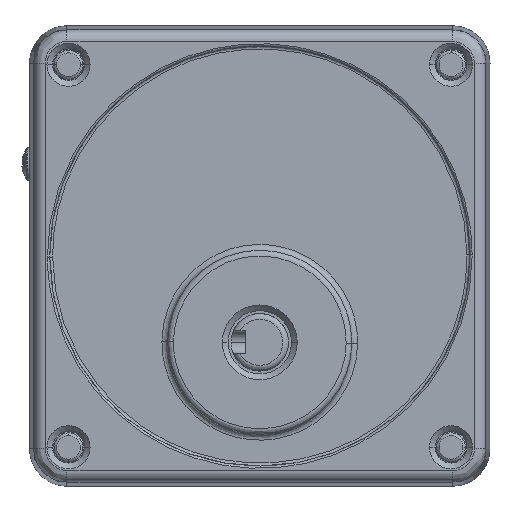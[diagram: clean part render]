
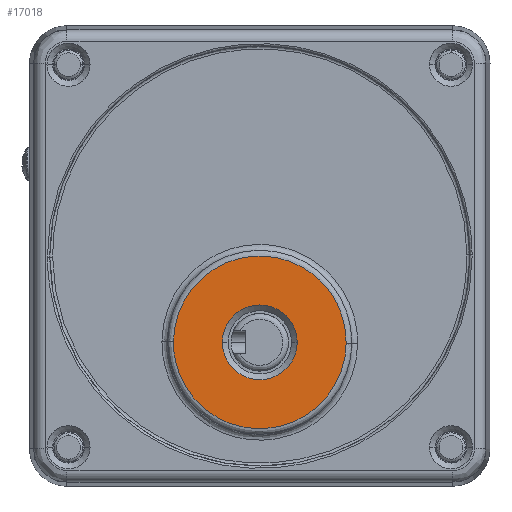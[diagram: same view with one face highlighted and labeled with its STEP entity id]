
A CAD part, front view. The second image highlights one B-rep face of the part: STEP entity #17018.
In plain terms, the highlighted planar face has unit normal (0, -1, 0) as drawn and (0, 0, 1) by its records, which use the part's own axes.
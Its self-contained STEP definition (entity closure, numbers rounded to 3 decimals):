
#744 = CARTESIAN_POINT ( 'NONE',  ( 0., -15., 46.5 ) ) ;
#863 = EDGE_CURVE ( 'NONE', #15733, #16110, #28545, .T. ) ;
#1122 = ORIENTED_EDGE ( 'NONE', *, *, #863, .F. ) ;
#2246 = VERTEX_POINT ( 'NONE', #17976 ) ;
#2247 = EDGE_LOOP ( 'NONE', ( #29820, #17597 ) ) ;
#2559 = CARTESIAN_POINT ( 'NONE',  ( -15., -15., 46.5 ) ) ;
#3604 = FACE_OUTER_BOUND ( 'NONE', #35740, .T. ) ;
#4907 = VERTEX_POINT ( 'NONE', #13170 ) ;
#5982 = EDGE_CURVE ( 'NONE', #14886, #15733, #15195, .T. ) ;
#7589 = CARTESIAN_POINT ( 'NONE',  ( 0., -15., 46.5 ) ) ;
#9168 = ORIENTED_EDGE ( 'NONE', *, *, #5982, .F. ) ;
#9596 = CARTESIAN_POINT ( 'NONE',  ( -15., -44.612, 46.5 ) ) ;
#9914 = DIRECTION ( 'NONE',  ( 1., 0., 0. ) ) ;
#9955 = LINE ( 'NONE', #21543, #22536 ) ;
#10973 = CARTESIAN_POINT ( 'NONE',  ( 6.5, -15., 46.5 ) ) ;
#11108 = CARTESIAN_POINT ( 'NONE',  ( 15., 14.612, 46.5 ) ) ;
#12345 = DIRECTION ( 'NONE',  ( 0., 0., 1. ) ) ;
#13008 = ORIENTED_EDGE ( 'NONE', *, *, #18793, .F. ) ;
#13170 = CARTESIAN_POINT ( 'NONE',  ( 15., -15., 46.5 ) ) ;
#14175 = DIRECTION ( 'NONE',  ( 0.007, 1., 0. ) ) ;
#14886 = VERTEX_POINT ( 'NONE', #17207 ) ;
#14973 = VECTOR ( 'NONE', #14175, 1000. ) ;
#15195 =( BOUNDED_CURVE ( )  B_SPLINE_CURVE ( 3, ( #24040, #35512, #9596, #21186 ),
 .UNSPECIFIED., .F., .F. ) 
 B_SPLINE_CURVE_WITH_KNOTS ( ( 4, 4 ),
 ( 0., 1. ),
 .UNSPECIFIED. ) 
 CURVE ( )  GEOMETRIC_REPRESENTATION_ITEM ( )  RATIONAL_B_SPLINE_CURVE ( ( 1., 0.338, 0.338, 1. ) ) 
 REPRESENTATION_ITEM ( '' )  );
#15221 = FACE_BOUND ( 'NONE', #2247, .T. ) ;
#15302 = CARTESIAN_POINT ( 'NONE',  ( -14.999, -14.804, 46.5 ) ) ;
#15733 = VERTEX_POINT ( 'NONE', #29747 ) ;
#15991 = CIRCLE ( 'NONE', #37028, 6.5 ) ;
#16110 = VERTEX_POINT ( 'NONE', #15302 ) ;
#17018 = ADVANCED_FACE ( 'NONE', ( #3604, #15221 ), #26775, .T. ) ;
#17207 = CARTESIAN_POINT ( 'NONE',  ( 14.999, -15.196, 46.5 ) ) ;
#17597 = ORIENTED_EDGE ( 'NONE', *, *, #21993, .T. ) ;
#17976 = CARTESIAN_POINT ( 'NONE',  ( -6.5, -15., 46.5 ) ) ;
#18006 = AXIS2_PLACEMENT_3D ( 'NONE', #7589, #19197, #30697 ) ;
#18793 = EDGE_CURVE ( 'NONE', #16110, #4907, #35456, .T. ) ;
#19197 = DIRECTION ( 'NONE',  ( 0., 0., -1. ) ) ;
#21186 = CARTESIAN_POINT ( 'NONE',  ( -15., -15., 46.5 ) ) ;
#21543 = CARTESIAN_POINT ( 'NONE',  ( 15., -15., 46.5 ) ) ;
#21993 = EDGE_CURVE ( 'NONE', #2246, #30832, #15991, .T. ) ;
#22536 = VECTOR ( 'NONE', #33048, 1000. ) ;
#22691 = CARTESIAN_POINT ( 'NONE',  ( 15., -15., 46.5 ) ) ;
#23118 = AXIS2_PLACEMENT_3D ( 'NONE', #744, #12345, #23928 ) ;
#23928 = DIRECTION ( 'NONE',  ( 1., 0., 0. ) ) ;
#24040 = CARTESIAN_POINT ( 'NONE',  ( 14.999, -15.196, 46.5 ) ) ;
#24365 = CARTESIAN_POINT ( 'NONE',  ( 0., -15., 46.5 ) ) ;
#25552 = CARTESIAN_POINT ( 'NONE',  ( -14.999, -14.804, 46.5 ) ) ;
#26775 = PLANE ( 'NONE',  #23118 ) ;
#28545 = LINE ( 'NONE', #2559, #14973 ) ;
#29747 = CARTESIAN_POINT ( 'NONE',  ( -15., -15., 46.5 ) ) ;
#29820 = ORIENTED_EDGE ( 'NONE', *, *, #32054, .T. ) ;
#30697 = DIRECTION ( 'NONE',  ( 1., 0., 0. ) ) ;
#30832 = VERTEX_POINT ( 'NONE', #10973 ) ;
#32054 = EDGE_CURVE ( 'NONE', #30832, #2246, #34250, .T. ) ;
#33048 = DIRECTION ( 'NONE',  ( -0.007, -1., 0. ) ) ;
#33250 = EDGE_CURVE ( 'NONE', #4907, #14886, #9955, .T. ) ;
#34250 = CIRCLE ( 'NONE', #18006, 6.5 ) ;
#35456 =( BOUNDED_CURVE ( )  B_SPLINE_CURVE ( 3, ( #25552, #36988, #11108, #22691 ),
 .UNSPECIFIED., .F., .T. ) 
 B_SPLINE_CURVE_WITH_KNOTS ( ( 4, 4 ),
 ( 0., 1. ),
 .UNSPECIFIED. ) 
 CURVE ( )  GEOMETRIC_REPRESENTATION_ITEM ( )  RATIONAL_B_SPLINE_CURVE ( ( 1., 0.338, 0.338, 1. ) ) 
 REPRESENTATION_ITEM ( '' )  );
#35512 = CARTESIAN_POINT ( 'NONE',  ( 14.612, -44.806, 46.5 ) ) ;
#35740 = EDGE_LOOP ( 'NONE', ( #9168, #35816, #13008, #1122 ) ) ;
#35816 = ORIENTED_EDGE ( 'NONE', *, *, #33250, .F. ) ;
#35834 = DIRECTION ( 'NONE',  ( 0., 0., -1. ) ) ;
#36988 = CARTESIAN_POINT ( 'NONE',  ( -14.612, 14.806, 46.5 ) ) ;
#37028 = AXIS2_PLACEMENT_3D ( 'NONE', #24365, #35834, #9914 ) ;
